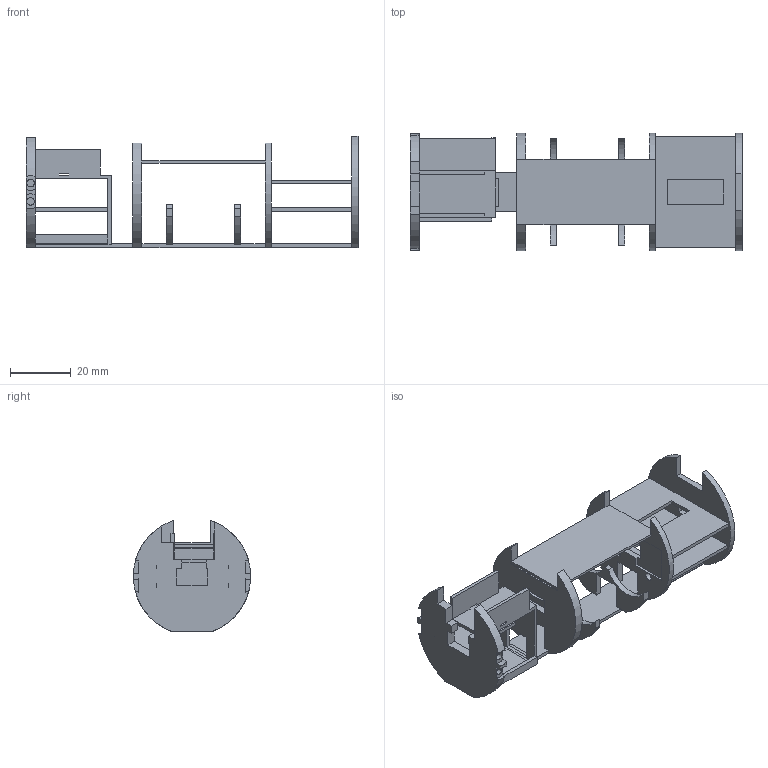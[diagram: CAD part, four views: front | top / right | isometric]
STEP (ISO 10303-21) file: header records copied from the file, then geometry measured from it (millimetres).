
FILE_DESCRIPTION(('Open CASCADE Model'),'2;1');
FILE_NAME('Open CASCADE Shape Model','2026-11-07T08:48:29',('Author'),( 'Open CASCADE'),'Open CASCADE STEP processor 8.0','build123d', 'Unknown');
FILE_SCHEMA(('AUTOMOTIVE_DESIGN { 1 0 10303 214 1 1 1 1 }'));
Length unit declared in the file: millimetre
Products named in the file (1): COMPOUND
Bounding box: 109.07 x 38.59 x 36.54 mm (x, y, z)
Volume: 14906.3 mm3; surface area: 21880.7 mm2
Topology: 1 solids, 1 shells, 217 faces, 699 edges, 462 vertices
Faces by surface type: plane 184, cylinder 33
Full cylindrical faces by diameter (mm): 2.5 x6
Entity records: 16578 total; most frequent: CARTESIAN_POINT 4064, DIRECTION 1866, ORIENTED_EDGE 1398, PCURVE 1398, DEFINITIONAL_REPRESENTATION 1398, LINE 1240, VECTOR 1240, B_SPLINE_CURVE_WITH_KNOTS 720
